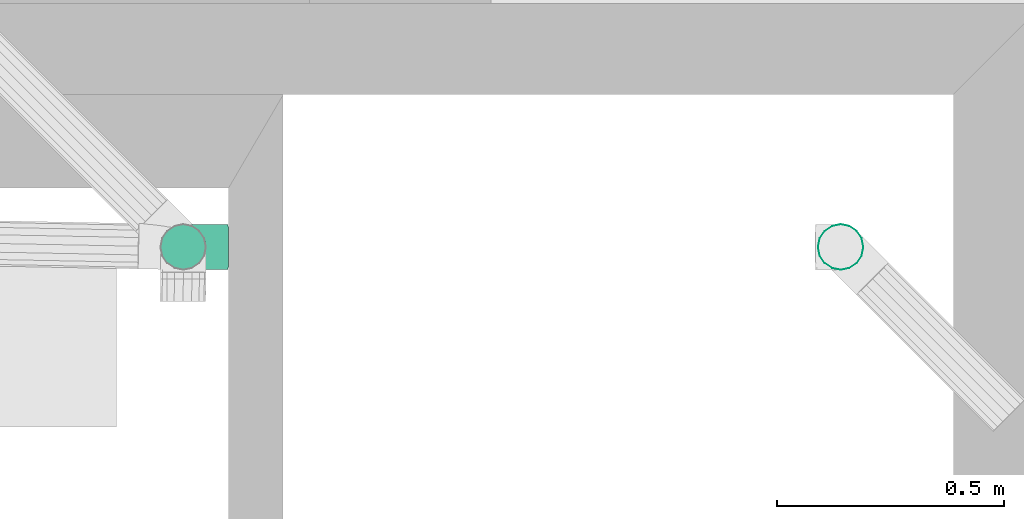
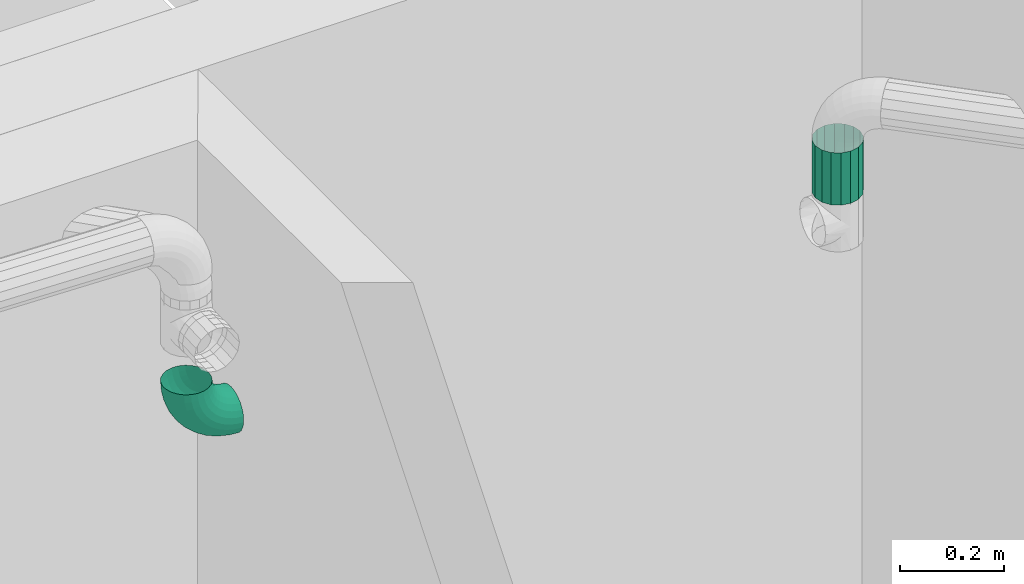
# One storey, part 19 of 22: 1 flow fitting, 1 flow segment.
"""IFC2X3 building model written with IfcOpenShell, lengths in metres."""

from ifc_helpers import new_model, entity, si_unit, converted_unit, derived_unit, money_unit, direction, frame, origin_with_axes, place, context, subcontext, project, spatial, open_shell, faceted_brep, surface_model, material, type_object, element, save


model = new_model("IFC2X3")

# Units and contexts
model_context = context("Model", 3, precision=1e-05, world=origin_with_axes(), true_north=direction((0.0, 1.0)))
body_context = subcontext(model_context, "Body", "Model", "MODEL_VIEW", scale=1.0)
ifc_project = project(units=[si_unit("LENGTHUNIT", "METRE"), si_unit("AREAUNIT", "SQUARE_METRE"), si_unit("VOLUMEUNIT", "CUBIC_METRE"), si_unit("ABSORBEDDOSEUNIT", "GRAY"), si_unit("AMOUNTOFSUBSTANCEUNIT", "MOLE"), si_unit("DOSEEQUIVALENTUNIT", "SIEVERT"), si_unit("ELECTRICCAPACITANCEUNIT", "FARAD"), si_unit("ELECTRICCHARGEUNIT", "COULOMB"), si_unit("ELECTRICCONDUCTANCEUNIT", "SIEMENS"), si_unit("ELECTRICCURRENTUNIT", "AMPERE"), si_unit("ELECTRICRESISTANCEUNIT", "OHM"), si_unit("ELECTRICVOLTAGEUNIT", "VOLT"), si_unit("ENERGYUNIT", "JOULE"), si_unit("FORCEUNIT", "NEWTON"), si_unit("FREQUENCYUNIT", "HERTZ"), si_unit("ILLUMINANCEUNIT", "LUX"), si_unit("INDUCTANCEUNIT", "HENRY"), si_unit("LUMINOUSFLUXUNIT", "LUMEN"), si_unit("LUMINOUSINTENSITYUNIT", "CANDELA"), si_unit("MAGNETICFLUXDENSITYUNIT", "TESLA"), si_unit("MAGNETICFLUXUNIT", "WEBER"), si_unit("MASSUNIT", "GRAM"), converted_unit("PLANEANGLEUNIT", "degree", entity("IfcReal", 0.0174532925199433), si_unit("PLANEANGLEUNIT", "RADIAN"), dimensions=[0, 0, 0, 0, 0, 0, 0]), si_unit("POWERUNIT", "WATT"), si_unit("PRESSUREUNIT", "PASCAL"), si_unit("RADIOACTIVITYUNIT", "BECQUEREL"), si_unit("SOLIDANGLEUNIT", "STERADIAN"), si_unit("THERMODYNAMICTEMPERATUREUNIT", "KELVIN"), si_unit("TIMEUNIT", "SECOND"), derived_unit("ACCELERATIONUNIT", [(si_unit("LENGTHUNIT", "METRE"), 1), (si_unit("TIMEUNIT", "SECOND"), -2)]), derived_unit("ANGULARVELOCITYUNIT", [(converted_unit("PLANEANGLEUNIT", "degree", entity("IfcReal", 0.0174532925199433), si_unit("PLANEANGLEUNIT", "RADIAN"), dimensions=[0, 0, 0, 0, 0, 0, 0]), 1), (si_unit("TIMEUNIT", "SECOND"), -1)]), derived_unit("CURVATUREUNIT", [(converted_unit("PLANEANGLEUNIT", "degree", entity("IfcReal", 0.0174532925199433), si_unit("PLANEANGLEUNIT", "RADIAN"), dimensions=[0, 0, 0, 0, 0, 0, 0]), 1), (si_unit("LENGTHUNIT", "METRE"), -1)]), derived_unit("DYNAMICVISCOSITYUNIT", [(si_unit("PRESSUREUNIT", "PASCAL"), 1), (si_unit("TIMEUNIT", "SECOND"), 1)]), derived_unit("HEATFLUXDENSITYUNIT", [(si_unit("POWERUNIT", "WATT"), 1), (si_unit("LENGTHUNIT", "METRE"), -2)]), derived_unit("HEATINGVALUEUNIT", [(si_unit("ENERGYUNIT", "JOULE"), 1), (si_unit("MASSUNIT", "GRAM"), -1)]), derived_unit("INTEGERCOUNTRATEUNIT", [(si_unit("TIMEUNIT", "SECOND"), -1)]), derived_unit("IONCONCENTRATIONUNIT", [(si_unit("MASSUNIT", "GRAM"), 1), (si_unit("VOLUMEUNIT", "CUBIC_METRE"), -1)]), derived_unit("ISOTHERMALMOISTURECAPACITYUNIT", [(si_unit("VOLUMEUNIT", "CUBIC_METRE"), 1), (si_unit("MASSUNIT", "GRAM"), -1)]), derived_unit("KINEMATICVISCOSITYUNIT", [(si_unit("AREAUNIT", "SQUARE_METRE"), 1), (si_unit("TIMEUNIT", "SECOND"), -1)]), derived_unit("LINEARFORCEUNIT", [(si_unit("FORCEUNIT", "NEWTON"), 1), (si_unit("LENGTHUNIT", "METRE"), -1)]), derived_unit("LINEARMOMENTUNIT", [(si_unit("FORCEUNIT", "NEWTON"), 1), (si_unit("LENGTHUNIT", "METRE"), -1)]), derived_unit("LINEARSTIFFNESSUNIT", [(si_unit("FORCEUNIT", "NEWTON"), 1), (si_unit("LENGTHUNIT", "METRE"), -1)]), derived_unit("LINEARVELOCITYUNIT", [(si_unit("LENGTHUNIT", "METRE"), 1), (si_unit("TIMEUNIT", "SECOND"), -1)]), derived_unit("LUMINOUSINTENSITYDISTRIBUTIONUNIT", [(si_unit("LUMINOUSINTENSITYUNIT", "CANDELA"), 1), (si_unit("LUMINOUSFLUXUNIT", "LUMEN"), -1)]), derived_unit("MASSDENSITYUNIT", [(si_unit("MASSUNIT", "GRAM"), 1), (si_unit("VOLUMEUNIT", "CUBIC_METRE"), -1)]), derived_unit("MASSFLOWRATEUNIT", [(si_unit("MASSUNIT", "GRAM"), 1), (si_unit("TIMEUNIT", "SECOND"), -1)]), derived_unit("MASSPERLENGTHUNIT", [(si_unit("MASSUNIT", "GRAM"), 1), (si_unit("LENGTHUNIT", "METRE"), -1)]), derived_unit("MODULUSOFELASTICITYUNIT", [(si_unit("FORCEUNIT", "NEWTON"), 1), (si_unit("AREAUNIT", "SQUARE_METRE"), -1)]), derived_unit("MODULUSOFLINEARSUBGRADEREACTIONUNIT", [(si_unit("FORCEUNIT", "NEWTON"), 1), (si_unit("LENGTHUNIT", "METRE"), -2)]), derived_unit("MODULUSOFROTATIONALSUBGRADEREACTIONUNIT", [(si_unit("FORCEUNIT", "NEWTON"), 1), (si_unit("LENGTHUNIT", "METRE"), 1)]), derived_unit("MODULUSOFSUBGRADEREACTIONUNIT", [(si_unit("FORCEUNIT", "NEWTON"), 1), (si_unit("VOLUMEUNIT", "CUBIC_METRE"), -1)]), derived_unit("MOISTUREDIFFUSIVITYUNIT", [(si_unit("VOLUMEUNIT", "CUBIC_METRE"), 1), (si_unit("TIMEUNIT", "SECOND"), -1)]), derived_unit("MOLECULARWEIGHTUNIT", [(si_unit("MASSUNIT", "GRAM"), 1), (si_unit("AMOUNTOFSUBSTANCEUNIT", "MOLE"), -1)]), derived_unit("PLANARFORCEUNIT", [(si_unit("FORCEUNIT", "NEWTON"), 1), (si_unit("LENGTHUNIT", "METRE"), -2)]), derived_unit("ROTATIONALFREQUENCYUNIT", [(si_unit("TIMEUNIT", "SECOND"), -1)]), derived_unit("ROTATIONALMASSUNIT", [(si_unit("MASSUNIT", "GRAM"), 1), (si_unit("LENGTHUNIT", "METRE"), 2)]), derived_unit("ROTATIONALSTIFFNESSUNIT", [(si_unit("FORCEUNIT", "NEWTON"), 1), (si_unit("LENGTHUNIT", "METRE"), 1), (converted_unit("PLANEANGLEUNIT", "degree", entity("IfcReal", 0.0174532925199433), si_unit("PLANEANGLEUNIT", "RADIAN"), dimensions=[0, 0, 0, 0, 0, 0, 0]), -1)]), derived_unit("SECTIONAREAINTEGRALUNIT", [(si_unit("LENGTHUNIT", "METRE"), 5)]), derived_unit("SECTIONMODULUSUNIT", [(si_unit("LENGTHUNIT", "METRE"), 3)]), derived_unit("SHEARMODULUSUNIT", [(si_unit("FORCEUNIT", "NEWTON"), 1), (si_unit("AREAUNIT", "SQUARE_METRE"), -1)]), derived_unit("SOUNDPOWERUNIT", [(si_unit("ENERGYUNIT", "JOULE"), 1), (si_unit("TIMEUNIT", "SECOND"), -1)]), derived_unit("SPECIFICHEATCAPACITYUNIT", [(si_unit("FORCEUNIT", "NEWTON"), 1), (si_unit("MASSUNIT", "GRAM"), -1), (si_unit("THERMODYNAMICTEMPERATUREUNIT", "KELVIN"), -1)]), derived_unit("TEMPERATUREGRADIENTUNIT", [(si_unit("THERMODYNAMICTEMPERATUREUNIT", "KELVIN"), 1), (si_unit("LENGTHUNIT", "METRE"), -1)]), derived_unit("THERMALADMITTANCEUNIT", [(si_unit("POWERUNIT", "WATT"), 1), (si_unit("AREAUNIT", "SQUARE_METRE"), -1), (si_unit("THERMODYNAMICTEMPERATUREUNIT", "KELVIN"), -1)]), derived_unit("THERMALCONDUCTANCEUNIT", [(si_unit("POWERUNIT", "WATT"), 1), (si_unit("LENGTHUNIT", "METRE"), -1), (si_unit("THERMODYNAMICTEMPERATUREUNIT", "KELVIN"), -1)]), derived_unit("THERMALEXPANSIONCOEFFICIENTUNIT", [(si_unit("THERMODYNAMICTEMPERATUREUNIT", "KELVIN"), -1)]), derived_unit("THERMALRESISTANCEUNIT", [(si_unit("AREAUNIT", "SQUARE_METRE"), 1), (si_unit("POWERUNIT", "WATT"), -1)]), derived_unit("THERMALTRANSMITTANCEUNIT", [(si_unit("POWERUNIT", "WATT"), 1), (si_unit("AREAUNIT", "SQUARE_METRE"), -1), (si_unit("THERMODYNAMICTEMPERATUREUNIT", "KELVIN"), -1)]), derived_unit("TORQUEUNIT", [(si_unit("FORCEUNIT", "NEWTON"), 1), (si_unit("LENGTHUNIT", "METRE"), 1)]), derived_unit("VAPORPERMEABILITYUNIT", [(si_unit("MASSUNIT", "GRAM"), 1), (si_unit("TIMEUNIT", "SECOND"), -1)]), derived_unit("VOLUMETRICFLOWRATEUNIT", [(si_unit("VOLUMEUNIT", "CUBIC_METRE"), 1), (si_unit("TIMEUNIT", "SECOND"), -1)]), derived_unit("WARPINGCONSTANTUNIT", [(si_unit("LENGTHUNIT", "METRE"), 6)]), derived_unit("WARPINGMOMENTUNIT", [(si_unit("FORCEUNIT", "NEWTON"), 1), (si_unit("LENGTHUNIT", "METRE"), 2)]), money_unit("GBP")], contexts=[model_context])

# Site, building, storey, space
site_placement = place(None, origin_with_axes())
site = spatial("IfcSite", under=ifc_project, at=site_placement, Name="Site", CompositionType="ELEMENT")
building_placement = place(site_placement, origin_with_axes())
building = spatial("IfcBuilding", under=site, at=building_placement, Name="Building01", CompositionType="ELEMENT")
storey_placement = place(building_placement, frame((0.0, 0.0, 2.6), z_axis=(0.0, 0.0, 1.0), x_axis=(1.0, 0.0, 0.0)))
storey = spatial("IfcBuildingStorey", under=building, at=storey_placement, Name="MF", CompositionType="ELEMENT", Elevation=2.6)
space_1_placement = place(storey_placement, frame((17.626946, 6.196984, 0.0), z_axis=(0.0, 0.0, 1.0), x_axis=(1.0, 0.0, 0.0)))
space_1 = spatial("IfcSpace", under=storey, at=space_1_placement, Name="1", CompositionType="ELEMENT", InteriorOrExteriorSpace="NOTDEFINED")

# Flow segment
ifc_material = material(Name="M_BSUK_ColdWater")
pipe_segment_type = type_object("IfcPipeSegmentType", Name="M-BmpStraightpipe-DefaultPipe", PredefinedType="RIGIDSEGMENT")
placement = place(building_placement, origin_with_axes())
flow_segment_placement = place(placement, frame((18.854537, 8.516912, 4.389052), z_axis=(1.0, 0.0, 0.0), x_axis=(0.0, 0.0, 1.0)))
element("IfcFlowSegment", 1, at=flow_segment_placement, inside=space_1, type_object=pipe_segment_type, material=ifc_material, Name="M-BmpStraightpipe-DefaultPipe", ObjectType="M-BmpStraightpipe-DefaultPipe", context=body_context, shape_type="Brep", body=[
    faceted_brep([(0.122618, 0.0, -0.05), (0.0, 0.0, -0.05), (0.0, 0.019134, -0.046194), (0.122618, 0.019134, -0.046194), (0.0, 0.035355, -0.035355), (0.122618, 0.035355, -0.035355), (0.0, 0.046194, -0.019134), (0.122618, 0.046194, -0.019134), (0.0, 0.05, 0.0), (0.122618, 0.05, 0.0), (0.0, 0.046194, 0.019134), (0.122618, 0.046194, 0.019134), (0.0, 0.035355, 0.035355), (0.122618, 0.035355, 0.035355), (0.0, 0.019134, 0.046194), (0.122618, 0.019134, 0.046194), (0.0, 0.0, 0.05), (0.122618, 0.0, 0.05), (0.0, -0.019134, 0.046194), (0.122618, -0.019134, 0.046194), (0.0, -0.035355, 0.035355), (0.122618, -0.035355, 0.035355), (0.0, -0.046194, 0.019134), (0.122618, -0.046194, 0.019134), (0.0, -0.05, 0.0), (0.122618, -0.05, 0.0), (0.0, -0.046194, -0.019134), (0.122618, -0.046194, -0.019134), (0.0, -0.035355, -0.035355), (0.122618, -0.035355, -0.035355), (0.0, -0.019134, -0.046194), (0.122618, -0.019134, -0.046194)], [[[0, 1, 2, 3]], [[3, 2, 4, 5]], [[5, 4, 6, 7]], [[7, 6, 8, 9]], [[9, 8, 10, 11]], [[11, 10, 12, 13]], [[13, 12, 14, 15]], [[15, 14, 16, 17]], [[17, 16, 18, 19]], [[19, 18, 20, 21]], [[21, 20, 22, 23]], [[23, 22, 24, 25]], [[25, 24, 26, 27]], [[27, 26, 28, 29]], [[29, 28, 30, 31]], [[31, 30, 1, 0]]]),
])

# Space
space_2_placement = place(storey_placement, frame((15.816265, 6.196984, 0.0), z_axis=(0.0, 0.0, 1.0), x_axis=(1.0, 0.0, 0.0)))
space_2 = spatial("IfcSpace", under=storey, at=space_2_placement, Name="WC", CompositionType="ELEMENT", InteriorOrExteriorSpace="NOTDEFINED")

# Flow fitting
pipe_fitting_type = type_object("IfcPipeFittingType", Name="M-BmpElbow-DefaultElbow", PredefinedType="BEND")
flow_fitting_placement = place(placement, frame((17.505696, 8.516912, 4.350282), z_axis=(-0.01249902, 0.0, -0.99992188), x_axis=(-0.99992188, 0.0, 0.01249902)))
element("IfcFlowFitting", 2, at=flow_fitting_placement, inside=space_2, type_object=pipe_fitting_type, material=ifc_material, Name="M-BmpElbow-DefaultElbow", ObjectType="M-BmpElbow-DefaultElbow", context=body_context, shape_type="SurfaceModel", body=[
    surface_model("IfcShellBasedSurfaceModel", [(0.008048, -0.01349, -0.048774), (0.0, -0.01349, -0.048146), (0.0, 0.0, -0.05), (0.00776, 0.0, -0.050606), (0.0159, -0.01349, -0.050644), (0.015332, 0.0, -0.052409), (0.023368, -0.01349, -0.05371), (0.022532, 0.0, -0.055365), (0.030269, -0.01349, -0.057897), (0.029187, 0.0, -0.059403), (0.036437, -0.01349, -0.063105), (0.035134, 0.0, -0.064424), (0.041721, -0.01349, -0.069207), (0.040229, 0.0, -0.070308), (0.045995, -0.01349, -0.076055), (0.04435, 0.0, -0.076912), (0.049154, -0.01349, -0.083484), (0.047396, 0.0, -0.084074), (0.051121, -0.01349, -0.091313), (0.049293, 0.0, -0.091623), (0.05185, -0.01349, -0.099352), (0.049996, 0.0, -0.099375), (0.00889, -0.025979, -0.043415), (0.0, -0.025979, -0.042721), (0.017564, -0.025979, -0.04548), (0.025813, -0.025979, -0.048867), (0.033436, -0.025979, -0.053493), (0.040248, -0.025979, -0.059245), (0.046086, -0.025979, -0.065986), (0.050807, -0.025979, -0.07355), (0.054296, -0.025979, -0.081756), (0.056469, -0.025979, -0.090404), (0.057275, -0.025979, -0.099284), (0.010223, -0.036542, -0.034926), (0.0, -0.036542, -0.034128), (0.020199, -0.036542, -0.037301), (0.029685, -0.036542, -0.041196), (0.038452, -0.036542, -0.046515), (0.046287, -0.036542, -0.053131), (0.053, -0.036542, -0.060883), (0.058429, -0.036542, -0.069582), (0.062442, -0.036542, -0.079019), (0.064941, -0.036542, -0.088964), (0.065867, -0.036542, -0.099177), (0.01195, -0.044394, -0.023936), (0.0, -0.044394, -0.023003), (0.02361, -0.044394, -0.026712), (0.034698, -0.044394, -0.031265), (0.044946, -0.044394, -0.037483), (0.054104, -0.044394, -0.045216), (0.061951, -0.044394, -0.054277), (0.068296, -0.044394, -0.064445), (0.072987, -0.044394, -0.075476), (0.075908, -0.044394, -0.0871), (0.076991, -0.044394, -0.099038), (0.013941, -0.048954, -0.011261), (0.0, -0.048954, -0.010173), (0.027544, -0.048954, -0.0145), (0.04048, -0.048954, -0.019811), (0.052435, -0.048954, -0.027065), (0.063119, -0.048954, -0.036087), (0.072274, -0.048954, -0.046657), (0.079677, -0.048954, -0.058521), (0.085149, -0.048954, -0.071389), (0.088558, -0.048954, -0.084951), (0.08982, -0.048954, -0.098877), (0.01605, -0.049883, 0.002159), (0.0, -0.049883, 0.003412), (0.03171, -0.049883, -0.00157), (0.046602, -0.049883, -0.007684), (0.060365, -0.049883, -0.016035), (0.072665, -0.049883, -0.026421), (0.083204, -0.049883, -0.03859), (0.091727, -0.049883, -0.052247), (0.098026, -0.049883, -0.067062), (0.101951, -0.049883, -0.082675), (0.103404, -0.049883, -0.098707), (0.018119, -0.047113, 0.015329), (0.0, -0.047113, 0.016744), (0.035798, -0.047113, 0.01112), (0.05261, -0.047113, 0.004218), (0.068147, -0.047113, -0.00521), (0.082033, -0.047113, -0.016935), (0.093931, -0.047113, -0.030673), (0.103552, -0.047113, -0.046091), (0.110664, -0.047113, -0.062816), (0.115094, -0.047113, -0.080441), (0.116735, -0.047113, -0.098541), (0.019995, -0.040848, 0.027273), (0.0, -0.040848, 0.028834), (0.039505, -0.040848, 0.022628), (0.058059, -0.040848, 0.01501), (0.075205, -0.040848, 0.004606), (0.090528, -0.040848, -0.008333), (0.103658, -0.040848, -0.023494), (0.114276, -0.040848, -0.040508), (0.122124, -0.040848, -0.058965), (0.127013, -0.040848, -0.078416), (0.128824, -0.040848, -0.09839), (0.021539, -0.031554, 0.037104), (0.0, -0.031554, 0.038786), (0.042557, -0.031554, 0.0321), (0.062543, -0.031554, 0.023894), (0.081014, -0.031554, 0.012686), (0.097521, -0.031554, -0.001252), (0.111665, -0.031554, -0.017584), (0.123103, -0.031554, -0.035913), (0.131557, -0.031554, -0.055795), (0.136824, -0.031554, -0.076749), (0.138775, -0.031554, -0.098265), (0.022638, -0.01992, 0.044093), (0.0, -0.01992, 0.045861), (0.044726, -0.01992, 0.038834), (0.065732, -0.01992, 0.03021), (0.085144, -0.01992, 0.018431), (0.102492, -0.01992, 0.003782), (0.117357, -0.01992, -0.013383), (0.129378, -0.01992, -0.032646), (0.138264, -0.01992, -0.053542), (0.143799, -0.01992, -0.075563), (0.145849, -0.01992, -0.098177), (0.023208, -0.006808, 0.047722), (0.0, -0.006808, 0.049534), (0.045853, -0.006808, 0.042331), (0.067387, -0.006808, 0.03349), (0.087288, -0.006808, 0.021414), (0.105074, -0.006808, 0.006395), (0.120313, -0.006808, -0.011201), (0.132637, -0.006808, -0.03095), (0.141746, -0.006808, -0.052372), (0.147421, -0.006808, -0.074948), (0.149523, -0.006808, -0.098131), (0.0, 0.0, 0.05), (0.045853, 0.006808, 0.042331), (0.023208, 0.006808, 0.047722), (0.067387, 0.006808, 0.03349), (0.087288, 0.006808, 0.021414), (0.105074, 0.006808, 0.006395), (0.120313, 0.006808, -0.011201), (0.132637, 0.006808, -0.03095), (0.141746, 0.006808, -0.052372), (0.147421, 0.006808, -0.074948), (0.149988, 0.0, -0.098125), (0.149523, 0.006808, -0.098131), (0.022638, 0.01992, 0.044093), (0.0, 0.01992, 0.045861), (0.0, 0.006808, 0.049534), (0.044726, 0.01992, 0.038834), (0.065732, 0.01992, 0.03021), (0.085144, 0.01992, 0.018431), (0.102492, 0.01992, 0.003782), (0.117357, 0.01992, -0.013383), (0.129378, 0.01992, -0.032646), (0.138264, 0.01992, -0.053542), (0.143799, 0.01992, -0.075563), (0.145849, 0.01992, -0.098177), (0.021539, 0.031554, 0.037104), (0.0, 0.031554, 0.038786), (0.042557, 0.031554, 0.0321), (0.062543, 0.031554, 0.023894), (0.081014, 0.031554, 0.012686), (0.097521, 0.031554, -0.001252), (0.111665, 0.031554, -0.017584), (0.123103, 0.031554, -0.035913), (0.131557, 0.031554, -0.055795), (0.136824, 0.031554, -0.076749), (0.138775, 0.031554, -0.098265), (0.019995, 0.040848, 0.027273), (0.0, 0.040848, 0.028834), (0.039505, 0.040848, 0.022628), (0.058059, 0.040848, 0.01501), (0.075205, 0.040848, 0.004606), (0.090528, 0.040848, -0.008333), (0.103658, 0.040848, -0.023494), (0.114276, 0.040848, -0.040508), (0.122124, 0.040848, -0.058965), (0.127013, 0.040848, -0.078416), (0.128824, 0.040848, -0.09839), (0.018119, 0.047113, 0.015329), (0.0, 0.047113, 0.016744), (0.035798, 0.047113, 0.01112), (0.05261, 0.047113, 0.004218), (0.068147, 0.047113, -0.00521), (0.082033, 0.047113, -0.016935), (0.093931, 0.047113, -0.030673), (0.103552, 0.047113, -0.046091), (0.110664, 0.047113, -0.062816), (0.115094, 0.047113, -0.080441), (0.116735, 0.047113, -0.098541), (0.01605, 0.049883, 0.002159), (0.0, 0.049883, 0.003412), (0.03171, 0.049883, -0.00157), (0.046602, 0.049883, -0.007684), (0.060365, 0.049883, -0.016035), (0.072665, 0.049883, -0.026421), (0.083204, 0.049883, -0.03859), (0.091727, 0.049883, -0.052247), (0.098026, 0.049883, -0.067062), (0.101951, 0.049883, -0.082675), (0.103404, 0.049883, -0.098707), (0.013941, 0.048954, -0.011261), (0.0, 0.048954, -0.010173), (0.027544, 0.048954, -0.0145), (0.04048, 0.048954, -0.019811), (0.052435, 0.048954, -0.027065), (0.063119, 0.048954, -0.036087), (0.072274, 0.048954, -0.046657), (0.079677, 0.048954, -0.058521), (0.085149, 0.048954, -0.071389), (0.088558, 0.048954, -0.084951), (0.08982, 0.048954, -0.098877), (0.01195, 0.044394, -0.023936), (0.0, 0.044394, -0.023003), (0.02361, 0.044394, -0.026712), (0.034698, 0.044394, -0.031265), (0.044946, 0.044394, -0.037483), (0.054104, 0.044394, -0.045216), (0.061951, 0.044394, -0.054277), (0.068296, 0.044394, -0.064445), (0.072987, 0.044394, -0.075476), (0.075908, 0.044394, -0.0871), (0.076991, 0.044394, -0.099038), (0.010223, 0.036542, -0.034926), (0.0, 0.036542, -0.034128), (0.020199, 0.036542, -0.037301), (0.029685, 0.036542, -0.041196), (0.038452, 0.036542, -0.046515), (0.046287, 0.036542, -0.053131), (0.053, 0.036542, -0.060883), (0.058429, 0.036542, -0.069582), (0.062442, 0.036542, -0.079019), (0.064941, 0.036542, -0.088964), (0.065867, 0.036542, -0.099177), (0.00889, 0.025979, -0.043415), (0.0, 0.025979, -0.042721), (0.017564, 0.025979, -0.04548), (0.025813, 0.025979, -0.048867), (0.033436, 0.025979, -0.053493), (0.040248, 0.025979, -0.059245), (0.046086, 0.025979, -0.065986), (0.050807, 0.025979, -0.07355), (0.054296, 0.025979, -0.081756), (0.056469, 0.025979, -0.090404), (0.057275, 0.025979, -0.099284), (0.008048, 0.01349, -0.048774), (0.0, 0.01349, -0.048146), (0.0159, 0.01349, -0.050644), (0.023368, 0.01349, -0.05371), (0.030269, 0.01349, -0.057897), (0.036437, 0.01349, -0.063105), (0.041721, 0.01349, -0.069207), (0.045995, 0.01349, -0.076055), (0.049154, 0.01349, -0.083484), (0.051121, 0.01349, -0.091313), (0.05185, 0.01349, -0.099352)], [open_shell([[[0, 1, 2, 3]], [[4, 0, 3, 5]], [[6, 4, 5, 7]], [[8, 6, 7, 9]], [[10, 8, 9, 11]], [[12, 10, 11, 13]], [[14, 12, 13, 15]], [[16, 14, 15, 17]], [[18, 16, 17, 19]], [[20, 18, 19, 21]], [[22, 23, 1, 0]], [[24, 22, 0, 4]], [[25, 24, 4, 6]], [[26, 25, 6, 8]], [[27, 26, 8, 10]], [[28, 27, 10, 12]], [[29, 28, 12, 14]], [[30, 29, 14, 16]], [[31, 30, 16, 18]], [[32, 31, 18, 20]], [[33, 34, 23, 22]], [[35, 33, 22, 24]], [[36, 35, 24, 25]], [[37, 36, 25, 26]], [[38, 37, 26, 27]], [[39, 38, 27, 28]], [[40, 39, 28, 29]], [[41, 40, 29, 30]], [[42, 41, 30, 31]], [[43, 42, 31, 32]], [[44, 45, 34, 33]], [[46, 44, 33, 35]], [[47, 46, 35, 36]], [[48, 47, 36, 37]], [[49, 48, 37, 38]], [[50, 49, 38, 39]], [[51, 50, 39, 40]], [[52, 51, 40, 41]], [[53, 52, 41, 42]], [[54, 53, 42, 43]], [[55, 56, 45, 44]], [[57, 55, 44, 46]], [[58, 57, 46, 47]], [[59, 58, 47, 48]], [[60, 59, 48, 49]], [[61, 60, 49, 50]], [[62, 61, 50, 51]], [[63, 62, 51, 52]], [[64, 63, 52, 53]], [[65, 64, 53, 54]], [[66, 67, 56, 55]], [[68, 66, 55, 57]], [[69, 68, 57, 58]], [[70, 69, 58, 59]], [[71, 70, 59, 60]], [[72, 71, 60, 61]], [[73, 72, 61, 62]], [[74, 73, 62, 63]], [[75, 74, 63, 64]], [[76, 75, 64, 65]], [[77, 78, 67, 66]], [[79, 77, 66, 68]], [[80, 79, 68, 69]], [[81, 80, 69, 70]], [[82, 81, 70, 71]], [[83, 82, 71, 72]], [[84, 83, 72, 73]], [[85, 84, 73, 74]], [[86, 85, 74, 75]], [[87, 86, 75, 76]], [[88, 89, 78, 77]], [[90, 88, 77, 79]], [[91, 90, 79, 80]], [[92, 91, 80, 81]], [[93, 92, 81, 82]], [[94, 93, 82, 83]], [[95, 94, 83, 84]], [[96, 95, 84, 85]], [[97, 96, 85, 86]], [[98, 97, 86, 87]], [[99, 100, 89, 88]], [[101, 99, 88, 90]], [[102, 101, 90, 91]], [[103, 102, 91, 92]], [[104, 103, 92, 93]], [[105, 104, 93, 94]], [[106, 105, 94, 95]], [[107, 106, 95, 96]], [[108, 107, 96, 97]], [[109, 108, 97, 98]], [[110, 111, 100, 99]], [[112, 110, 99, 101]], [[113, 112, 101, 102]], [[114, 113, 102, 103]], [[115, 114, 103, 104]], [[116, 115, 104, 105]], [[117, 116, 105, 106]], [[118, 117, 106, 107]], [[119, 118, 107, 108]], [[120, 119, 108, 109]], [[121, 122, 111, 110]], [[123, 121, 110, 112]], [[124, 123, 112, 113]], [[125, 124, 113, 114]], [[126, 125, 114, 115]], [[127, 126, 115, 116]], [[128, 127, 116, 117]], [[129, 128, 117, 118]], [[130, 129, 118, 119]], [[131, 130, 119, 120]], [[132, 122, 121]], [[133, 134, 121, 123]], [[135, 133, 123, 124]], [[136, 135, 124, 125]], [[137, 136, 125, 126]], [[138, 137, 126, 127]], [[139, 138, 127, 128]], [[140, 139, 128, 129]], [[141, 140, 129, 130]], [[142, 143, 141]], [[144, 145, 146, 134]], [[147, 144, 134, 133]], [[148, 147, 133, 135]], [[149, 148, 135, 136]], [[150, 149, 136, 137]], [[151, 150, 137, 138]], [[152, 151, 138, 139]], [[153, 152, 139, 140]], [[154, 153, 140, 141]], [[155, 154, 141, 143]], [[156, 157, 145, 144]], [[158, 156, 144, 147]], [[159, 158, 147, 148]], [[160, 159, 148, 149]], [[161, 160, 149, 150]], [[162, 161, 150, 151]], [[163, 162, 151, 152]], [[164, 163, 152, 153]], [[165, 164, 153, 154]], [[166, 165, 154, 155]], [[167, 168, 157, 156]], [[169, 167, 156, 158]], [[170, 169, 158, 159]], [[171, 170, 159, 160]], [[172, 171, 160, 161]], [[173, 172, 161, 162]], [[174, 173, 162, 163]], [[175, 174, 163, 164]], [[176, 175, 164, 165]], [[177, 176, 165, 166]], [[178, 179, 168, 167]], [[180, 178, 167, 169]], [[181, 180, 169, 170]], [[182, 181, 170, 171]], [[183, 182, 171, 172]], [[184, 183, 172, 173]], [[185, 184, 173, 174]], [[186, 185, 174, 175]], [[187, 186, 175, 176]], [[188, 187, 176, 177]], [[189, 190, 179, 178]], [[191, 189, 178, 180]], [[192, 191, 180, 181]], [[193, 192, 181, 182]], [[194, 193, 182, 183]], [[195, 194, 183, 184]], [[196, 195, 184, 185]], [[197, 196, 185, 186]], [[198, 197, 186, 187]], [[199, 198, 187, 188]], [[200, 201, 190, 189]], [[202, 200, 189, 191]], [[203, 202, 191, 192]], [[204, 203, 192, 193]], [[205, 204, 193, 194]], [[206, 205, 194, 195]], [[207, 206, 195, 196]], [[208, 207, 196, 197]], [[209, 208, 197, 198]], [[210, 209, 198, 199]], [[211, 212, 201, 200]], [[213, 211, 200, 202]], [[214, 213, 202, 203]], [[215, 214, 203, 204]], [[216, 215, 204, 205]], [[217, 216, 205, 206]], [[218, 217, 206, 207]], [[219, 218, 207, 208]], [[220, 219, 208, 209]], [[221, 220, 209, 210]], [[222, 223, 212, 211]], [[224, 222, 211, 213]], [[225, 224, 213, 214]], [[226, 225, 214, 215]], [[227, 226, 215, 216]], [[228, 227, 216, 217]], [[229, 228, 217, 218]], [[230, 229, 218, 219]], [[231, 230, 219, 220]], [[232, 231, 220, 221]], [[233, 234, 223, 222]], [[235, 233, 222, 224]], [[236, 235, 224, 225]], [[237, 236, 225, 226]], [[238, 237, 226, 227]], [[239, 238, 227, 228]], [[240, 239, 228, 229]], [[241, 240, 229, 230]], [[242, 241, 230, 231]], [[243, 242, 231, 232]], [[244, 245, 234, 233]], [[246, 244, 233, 235]], [[247, 246, 235, 236]], [[248, 247, 236, 237]], [[249, 248, 237, 238]], [[250, 249, 238, 239]], [[251, 250, 239, 240]], [[252, 251, 240, 241]], [[253, 252, 241, 242]], [[254, 253, 242, 243]], [[3, 2, 245, 244]], [[5, 3, 244, 246]], [[7, 5, 246, 247]], [[9, 7, 247, 248]], [[11, 9, 248, 249]], [[13, 11, 249, 250]], [[15, 13, 250, 251]], [[17, 15, 251, 252]], [[19, 17, 252, 253]], [[21, 19, 253, 254]], [[142, 141, 130]], [[130, 131, 142]], [[134, 146, 132]], [[121, 134, 132]]])]),
])

save(model, "model.ifc")
